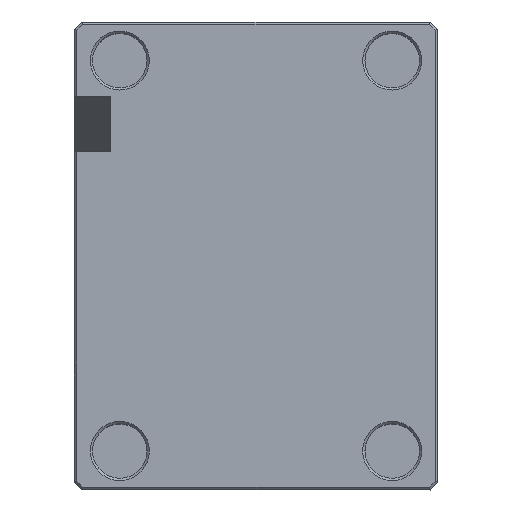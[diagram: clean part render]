
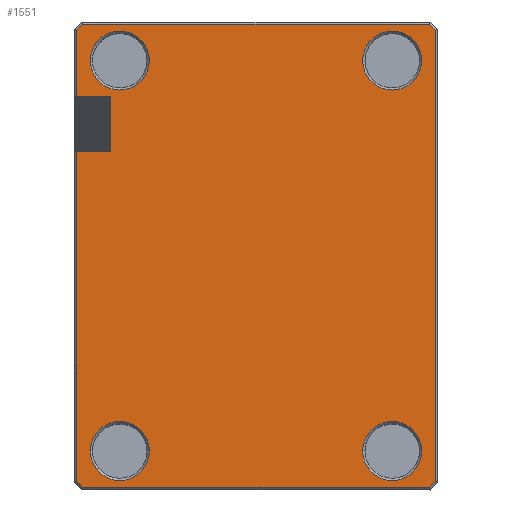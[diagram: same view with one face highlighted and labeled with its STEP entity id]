
A CAD part, top view. The second image highlights one B-rep face of the part: STEP entity #1551.
In plain terms, the highlighted planar face has unit normal (0, 0, 1).
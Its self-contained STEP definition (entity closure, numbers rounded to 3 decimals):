
#47=FACE_BOUND('',#200,.T.);
#48=FACE_BOUND('',#201,.T.);
#49=FACE_BOUND('',#202,.T.);
#50=FACE_BOUND('',#203,.T.);
#56=CIRCLE('',#1658,3.25);
#57=CIRCLE('',#1659,3.25);
#58=CIRCLE('',#1660,3.25);
#59=CIRCLE('',#1661,3.25);
#108=FACE_OUTER_BOUND('',#199,.T.);
#199=EDGE_LOOP('',(#1040,#1041,#1042,#1043,#1044,#1045,#1046,#1047,#1048,
#1049,#1050,#1051));
#200=EDGE_LOOP('',(#1052));
#201=EDGE_LOOP('',(#1053));
#202=EDGE_LOOP('',(#1054));
#203=EDGE_LOOP('',(#1055));
#298=LINE('',#2271,#476);
#300=LINE('',#2275,#478);
#303=LINE('',#2281,#481);
#306=LINE('',#2287,#484);
#307=LINE('',#2289,#485);
#308=LINE('',#2291,#486);
#309=LINE('',#2293,#487);
#310=LINE('',#2295,#488);
#311=LINE('',#2297,#489);
#312=LINE('',#2299,#490);
#313=LINE('',#2301,#491);
#314=LINE('',#2302,#492);
#476=VECTOR('',#1804,10.);
#478=VECTOR('',#1808,10.);
#481=VECTOR('',#1813,10.);
#484=VECTOR('',#1818,10.);
#485=VECTOR('',#1819,10.);
#486=VECTOR('',#1820,10.);
#487=VECTOR('',#1821,10.);
#488=VECTOR('',#1822,10.);
#489=VECTOR('',#1823,10.);
#490=VECTOR('',#1824,10.);
#491=VECTOR('',#1825,10.);
#492=VECTOR('',#1826,10.);
#654=VERTEX_POINT('',#2268);
#655=VERTEX_POINT('',#2270);
#656=VERTEX_POINT('',#2274);
#658=VERTEX_POINT('',#2280);
#660=VERTEX_POINT('',#2286);
#661=VERTEX_POINT('',#2288);
#662=VERTEX_POINT('',#2290);
#663=VERTEX_POINT('',#2292);
#664=VERTEX_POINT('',#2294);
#665=VERTEX_POINT('',#2296);
#666=VERTEX_POINT('',#2298);
#667=VERTEX_POINT('',#2300);
#668=VERTEX_POINT('',#2303);
#669=VERTEX_POINT('',#2305);
#670=VERTEX_POINT('',#2307);
#671=VERTEX_POINT('',#2309);
#802=EDGE_CURVE('',#654,#655,#298,.T.);
#804=EDGE_CURVE('',#656,#655,#300,.T.);
#807=EDGE_CURVE('',#658,#656,#303,.T.);
#810=EDGE_CURVE('',#660,#654,#306,.T.);
#811=EDGE_CURVE('',#661,#660,#307,.T.);
#812=EDGE_CURVE('',#662,#661,#308,.T.);
#813=EDGE_CURVE('',#663,#662,#309,.T.);
#814=EDGE_CURVE('',#664,#663,#310,.T.);
#815=EDGE_CURVE('',#665,#664,#311,.T.);
#816=EDGE_CURVE('',#666,#665,#312,.T.);
#817=EDGE_CURVE('',#667,#666,#313,.T.);
#818=EDGE_CURVE('',#658,#667,#314,.T.);
#819=EDGE_CURVE('',#668,#668,#56,.T.);
#820=EDGE_CURVE('',#669,#669,#57,.T.);
#821=EDGE_CURVE('',#670,#670,#58,.T.);
#822=EDGE_CURVE('',#671,#671,#59,.T.);
#1040=ORIENTED_EDGE('',*,*,#810,.F.);
#1041=ORIENTED_EDGE('',*,*,#811,.F.);
#1042=ORIENTED_EDGE('',*,*,#812,.F.);
#1043=ORIENTED_EDGE('',*,*,#813,.F.);
#1044=ORIENTED_EDGE('',*,*,#814,.F.);
#1045=ORIENTED_EDGE('',*,*,#815,.F.);
#1046=ORIENTED_EDGE('',*,*,#816,.F.);
#1047=ORIENTED_EDGE('',*,*,#817,.F.);
#1048=ORIENTED_EDGE('',*,*,#818,.F.);
#1049=ORIENTED_EDGE('',*,*,#807,.T.);
#1050=ORIENTED_EDGE('',*,*,#804,.T.);
#1051=ORIENTED_EDGE('',*,*,#802,.F.);
#1052=ORIENTED_EDGE('',*,*,#819,.F.);
#1053=ORIENTED_EDGE('',*,*,#820,.F.);
#1054=ORIENTED_EDGE('',*,*,#821,.F.);
#1055=ORIENTED_EDGE('',*,*,#822,.F.);
#1487=PLANE('',#1657);
#1551=ADVANCED_FACE('',(#108,#47,#48,#49,#50),#1487,.T.);
#1657=AXIS2_PLACEMENT_3D('',#2285,#1816,#1817);
#1658=AXIS2_PLACEMENT_3D('',#2304,#1827,#1828);
#1659=AXIS2_PLACEMENT_3D('',#2306,#1829,#1830);
#1660=AXIS2_PLACEMENT_3D('',#2308,#1831,#1832);
#1661=AXIS2_PLACEMENT_3D('',#2310,#1833,#1834);
#1804=DIRECTION('',(1.,0.,0.));
#1808=DIRECTION('',(0.,-1.,0.));
#1813=DIRECTION('',(1.,0.,0.));
#1816=DIRECTION('center_axis',(0.,0.,1.));
#1817=DIRECTION('ref_axis',(1.,0.,0.));
#1818=DIRECTION('',(0.,1.,0.));
#1819=DIRECTION('',(-0.707,0.707,0.));
#1820=DIRECTION('',(-1.,0.,0.));
#1821=DIRECTION('',(-0.707,-0.707,0.));
#1822=DIRECTION('',(0.,-1.,0.));
#1823=DIRECTION('',(0.707,-0.707,0.));
#1824=DIRECTION('',(1.,0.,0.));
#1825=DIRECTION('',(0.707,0.707,0.));
#1826=DIRECTION('',(0.,1.,0.));
#1827=DIRECTION('center_axis',(0.,0.,1.));
#1828=DIRECTION('ref_axis',(1.,0.,0.));
#1829=DIRECTION('center_axis',(0.,0.,1.));
#1830=DIRECTION('ref_axis',(1.,0.,0.));
#1831=DIRECTION('center_axis',(0.,0.,1.));
#1832=DIRECTION('ref_axis',(1.,0.,0.));
#1833=DIRECTION('center_axis',(0.,0.,1.));
#1834=DIRECTION('ref_axis',(1.,0.,0.));
#2268=CARTESIAN_POINT('',(-19.75,25.75,1.));
#2270=CARTESIAN_POINT('',(-16.,25.75,1.));
#2271=CARTESIAN_POINT('',(-18.625,25.75,1.));
#2274=CARTESIAN_POINT('',(-16.,31.75,1.));
#2275=CARTESIAN_POINT('',(-16.,19.5,1.));
#2280=CARTESIAN_POINT('',(-19.75,31.75,1.));
#2281=CARTESIAN_POINT('',(-9.,31.75,1.));
#2285=CARTESIAN_POINT('Origin',(0.,14.25,1.));
#2286=CARTESIAN_POINT('',(-19.75,-10.596,1.));
#2287=CARTESIAN_POINT('',(-19.75,24.75,1.));
#2288=CARTESIAN_POINT('',(-19.096,-11.25,1.));
#2289=CARTESIAN_POINT('',(-21.061,-9.286,1.));
#2290=CARTESIAN_POINT('',(19.096,-11.25,1.));
#2291=CARTESIAN_POINT('',(-9.6,-11.25,1.));
#2292=CARTESIAN_POINT('',(19.75,-10.596,1.));
#2293=CARTESIAN_POINT('',(20.661,-9.686,1.));
#2294=CARTESIAN_POINT('',(19.75,39.096,1.));
#2295=CARTESIAN_POINT('',(19.75,1.775,1.));
#2296=CARTESIAN_POINT('',(19.096,39.75,1.));
#2297=CARTESIAN_POINT('',(21.061,37.786,1.));
#2298=CARTESIAN_POINT('',(-19.096,39.75,1.));
#2299=CARTESIAN_POINT('',(9.6,39.75,1.));
#2300=CARTESIAN_POINT('',(-19.75,39.096,1.));
#2301=CARTESIAN_POINT('',(-20.661,38.186,1.));
#2302=CARTESIAN_POINT('',(-19.75,26.725,1.));
#2303=CARTESIAN_POINT('',(11.75,35.75,1.));
#2304=CARTESIAN_POINT('Origin',(15.,35.75,1.));
#2305=CARTESIAN_POINT('',(-18.25,-7.25,1.));
#2306=CARTESIAN_POINT('Origin',(-15.,-7.25,1.));
#2307=CARTESIAN_POINT('',(11.75,-7.25,1.));
#2308=CARTESIAN_POINT('Origin',(15.,-7.25,1.));
#2309=CARTESIAN_POINT('',(-18.25,35.75,1.));
#2310=CARTESIAN_POINT('Origin',(-15.,35.75,1.));
